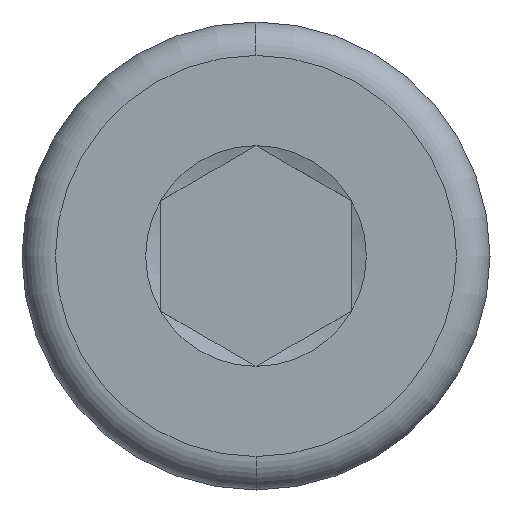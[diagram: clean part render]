
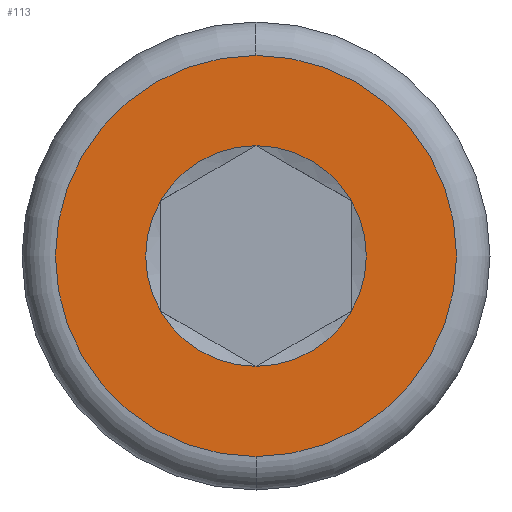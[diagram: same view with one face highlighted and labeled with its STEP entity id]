
A CAD part, left-side view. The second image highlights one B-rep face of the part: STEP entity #113.
In plain terms, the highlighted planar face has unit normal (-1, 0, 0).
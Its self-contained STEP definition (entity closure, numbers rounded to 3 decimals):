
#3 = VERTEX_POINT ( 'NONE', #378 ) ;
#5 = VERTEX_POINT ( 'NONE', #280 ) ;
#11 = CIRCLE ( 'NONE', #218, 2.309 ) ;
#24 = DIRECTION ( 'NONE',  ( 0., 0., -1. ) ) ;
#35 = CARTESIAN_POINT ( 'NONE',  ( 0., -2., 1.155 ) ) ;
#38 = DIRECTION ( 'NONE',  ( 0., 0., -1. ) ) ;
#39 = EDGE_CURVE ( 'NONE', #638, #282, #341, .T. ) ;
#47 = AXIS2_PLACEMENT_3D ( 'NONE', #596, #536, #495 ) ;
#50 = CARTESIAN_POINT ( 'NONE',  ( 0., 0., 0. ) ) ;
#53 = VERTEX_POINT ( 'NONE', #35 ) ;
#59 = CIRCLE ( 'NONE', #646, 2.309 ) ;
#68 = AXIS2_PLACEMENT_3D ( 'NONE', #234, #177, #365 ) ;
#73 = VERTEX_POINT ( 'NONE', #191 ) ;
#75 = DIRECTION ( 'NONE',  ( 0., 0., 1. ) ) ;
#80 = CIRCLE ( 'NONE', #438, 4.2 ) ;
#85 = PLANE ( 'NONE',  #414 ) ;
#91 = CIRCLE ( 'NONE', #342, 2.309 ) ;
#107 = CARTESIAN_POINT ( 'NONE',  ( 0., 0., 0. ) ) ;
#113 = ADVANCED_FACE ( 'NONE', ( #141, #386 ), #85, .T. ) ;
#122 = VERTEX_POINT ( 'NONE', #398 ) ;
#135 = DIRECTION ( 'NONE',  ( 1., 0., 0. ) ) ;
#137 = EDGE_CURVE ( 'NONE', #122, #647, #11, .T. ) ;
#141 = FACE_BOUND ( 'NONE', #258, .T. ) ;
#172 = ORIENTED_EDGE ( 'NONE', *, *, #501, .T. ) ;
#177 = DIRECTION ( 'NONE',  ( 1., 0., 0. ) ) ;
#191 = CARTESIAN_POINT ( 'NONE',  ( 0., 0., 4.2 ) ) ;
#205 = AXIS2_PLACEMENT_3D ( 'NONE', #352, #411, #553 ) ;
#207 = ORIENTED_EDGE ( 'NONE', *, *, #419, .F. ) ;
#214 = EDGE_LOOP ( 'NONE', ( #207, #227 ) ) ;
#218 = AXIS2_PLACEMENT_3D ( 'NONE', #290, #488, #24 ) ;
#221 = EDGE_CURVE ( 'NONE', #647, #53, #91, .T. ) ;
#227 = ORIENTED_EDGE ( 'NONE', *, *, #238, .F. ) ;
#234 = CARTESIAN_POINT ( 'NONE',  ( 0., 0., 0. ) ) ;
#238 = EDGE_CURVE ( 'NONE', #73, #5, #80, .T. ) ;
#245 = ORIENTED_EDGE ( 'NONE', *, *, #137, .T. ) ;
#258 = EDGE_LOOP ( 'NONE', ( #245, #519, #172, #580, #431, #430 ) ) ;
#269 = DIRECTION ( 'NONE',  ( 1., 0., 0. ) ) ;
#275 = AXIS2_PLACEMENT_3D ( 'NONE', #637, #625, #279 ) ;
#279 = DIRECTION ( 'NONE',  ( 0., 0., -1. ) ) ;
#280 = CARTESIAN_POINT ( 'NONE',  ( 0., 0., -4.2 ) ) ;
#282 = VERTEX_POINT ( 'NONE', #504 ) ;
#290 = CARTESIAN_POINT ( 'NONE',  ( 0., 0., 0. ) ) ;
#295 = DIRECTION ( 'NONE',  ( -1., 0., 0. ) ) ;
#303 = DIRECTION ( 'NONE',  ( 1., 0., 0. ) ) ;
#322 = CIRCLE ( 'NONE', #68, 4.2 ) ;
#325 = EDGE_CURVE ( 'NONE', #282, #3, #565, .T. ) ;
#341 = CIRCLE ( 'NONE', #47, 2.309 ) ;
#342 = AXIS2_PLACEMENT_3D ( 'NONE', #107, #303, #672 ) ;
#352 = CARTESIAN_POINT ( 'NONE',  ( 0., 0., 0. ) ) ;
#365 = DIRECTION ( 'NONE',  ( 0., 0., -1. ) ) ;
#378 = CARTESIAN_POINT ( 'NONE',  ( 0., 2., -1.155 ) ) ;
#386 = FACE_OUTER_BOUND ( 'NONE', #214, .T. ) ;
#398 = CARTESIAN_POINT ( 'NONE',  ( 0., 2., 1.155 ) ) ;
#399 = EDGE_CURVE ( 'NONE', #3, #122, #611, .T. ) ;
#411 = DIRECTION ( 'NONE',  ( 1., 0., 0. ) ) ;
#414 = AXIS2_PLACEMENT_3D ( 'NONE', #598, #295, #75 ) ;
#419 = EDGE_CURVE ( 'NONE', #5, #73, #322, .T. ) ;
#430 = ORIENTED_EDGE ( 'NONE', *, *, #399, .T. ) ;
#431 = ORIENTED_EDGE ( 'NONE', *, *, #325, .T. ) ;
#438 = AXIS2_PLACEMENT_3D ( 'NONE', #50, #269, #38 ) ;
#443 = CARTESIAN_POINT ( 'NONE',  ( 0., -2., -1.155 ) ) ;
#485 = CARTESIAN_POINT ( 'NONE',  ( 0., 0., 0. ) ) ;
#488 = DIRECTION ( 'NONE',  ( 1., 0., 0. ) ) ;
#495 = DIRECTION ( 'NONE',  ( 0., 0., -1. ) ) ;
#501 = EDGE_CURVE ( 'NONE', #53, #638, #59, .T. ) ;
#504 = CARTESIAN_POINT ( 'NONE',  ( 0., 0., -2.309 ) ) ;
#519 = ORIENTED_EDGE ( 'NONE', *, *, #221, .T. ) ;
#536 = DIRECTION ( 'NONE',  ( 1., 0., 0. ) ) ;
#553 = DIRECTION ( 'NONE',  ( 0., 0., -1. ) ) ;
#565 = CIRCLE ( 'NONE', #205, 2.309 ) ;
#580 = ORIENTED_EDGE ( 'NONE', *, *, #39, .T. ) ;
#590 = DIRECTION ( 'NONE',  ( 0., 0., -1. ) ) ;
#596 = CARTESIAN_POINT ( 'NONE',  ( 0., 0., 0. ) ) ;
#598 = CARTESIAN_POINT ( 'NONE',  ( 0., 0., 0. ) ) ;
#604 = CARTESIAN_POINT ( 'NONE',  ( 0., 0., 2.309 ) ) ;
#611 = CIRCLE ( 'NONE', #275, 2.309 ) ;
#625 = DIRECTION ( 'NONE',  ( 1., 0., 0. ) ) ;
#637 = CARTESIAN_POINT ( 'NONE',  ( 0., 0., 0. ) ) ;
#638 = VERTEX_POINT ( 'NONE', #443 ) ;
#646 = AXIS2_PLACEMENT_3D ( 'NONE', #485, #135, #590 ) ;
#647 = VERTEX_POINT ( 'NONE', #604 ) ;
#672 = DIRECTION ( 'NONE',  ( 0., 0., -1. ) ) ;
